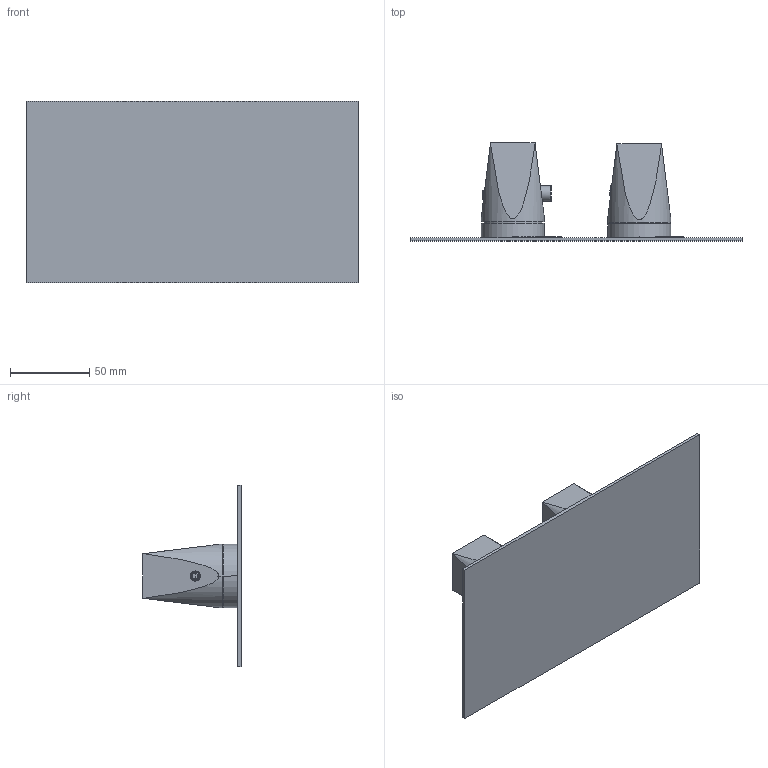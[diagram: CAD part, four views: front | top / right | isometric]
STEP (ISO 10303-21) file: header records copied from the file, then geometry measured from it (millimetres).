
FILE_DESCRIPTION((''),'2;1');
FILE_NAME('49712V2_SW0001','2023-09-21T10:08:01',('carloff'),(''),'CREO PARAMETRIC BY PTC INC, 2022014','CREO PARAMETRIC BY PTC INC, 2022014','');
FILE_SCHEMA(('CONFIG_CONTROL_DESIGN'));
Length unit declared in the file: millimetre
Products named in the file (1): 49712V2_SW0001
Bounding box: 210 x 62 x 115 mm (x, y, z)
Volume: 160971.1 mm3; surface area: 70961.5 mm2
Topology: 2 solids, 2 shells, 616 faces, 1589 edges, 1047 vertices
Faces by surface type: plane 373, extrusion 166, cylinder 49, torus 14, cone 10, sphere 4
Entity records: 19950 total; most frequent: CARTESIAN_POINT 5516, ORIENTED_EDGE 3166, DIRECTION 2399, EDGE_CURVE 1583, VECTOR 1245, LINE 1079, VERTEX_POINT 1047, EDGE_LOOP 694
